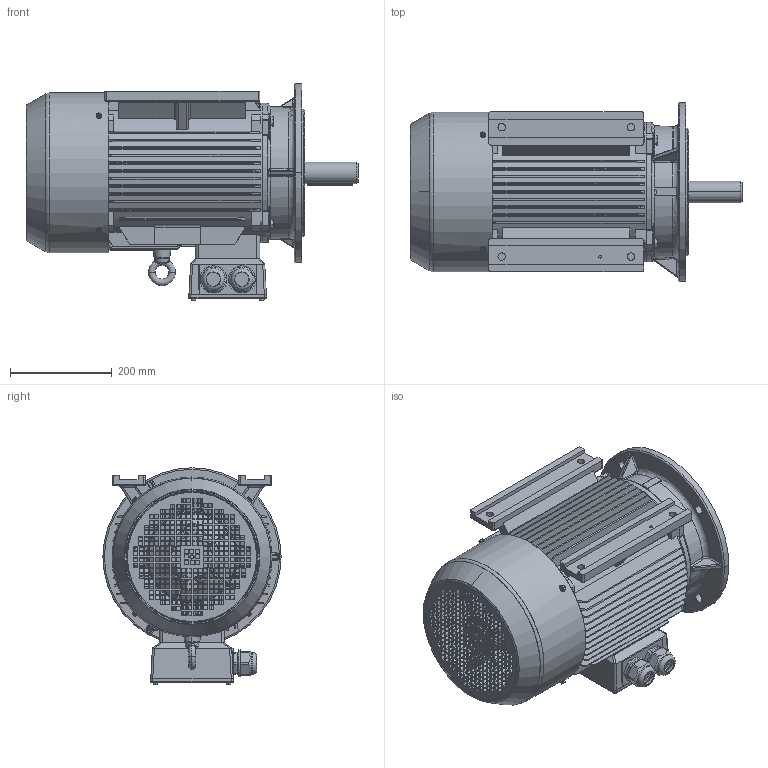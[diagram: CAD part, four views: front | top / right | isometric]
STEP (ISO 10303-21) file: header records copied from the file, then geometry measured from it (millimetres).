
FILE_DESCRIPTION(/* description */ (''),/* implementation_level */ '2;1');
FILE_NAME(/* name */ 'JM1-160L-B35.stp',/* time_stamp */ '2016-07-07T10:03:03+08:00',/* author */ (''),/* organization */ (''),/* preprocessor_version */ 'ST-DEVELOPER v15',/* originating_system */ 'SIEMENS PLM Software NX 8.5',/* authorisation */ '');
FILE_SCHEMA (('AUTOMOTIVE_DESIGN { 1 0 10303 214 3 1 1 1 }'));
Length unit declared in the file: millimetre
Products named in the file (1): pc063483D2x3fd
Bounding box: 651.96 x 350 x 425 mm (x, y, z)
Volume: 9627939.7 mm3; surface area: 2841795.7 mm2
Topology: 60 solids, 60 shells, 4364 faces, 11502 edges, 7393 vertices
Faces by surface type: plane 2427, cylinder 990, torus 353, cone 296, bspline 278, sphere 20
Full cylindrical faces by diameter (mm): 4.48 x8, 5 x8, 5.3 x4, 5.35 x8, 6 x8, 7 x8, 9.026 x8, 10 x12, 11.2 x8, 16 x1, 27.5 x2, 32.5 x4, 38.75 x12, 40 x4, 41.25 x12, 43.125 x2, 53.125 x2, 132 x1, 311 x1, 314 x1
Entity records: 153948 total; most frequent: CARTESIAN_POINT 45815, ORIENTED_EDGE 22292, DIRECTION 20592, EDGE_CURVE 11146, VERTEX_POINT 7270, AXIS2_PLACEMENT_3D 6913, LINE 6766, VECTOR 6766
